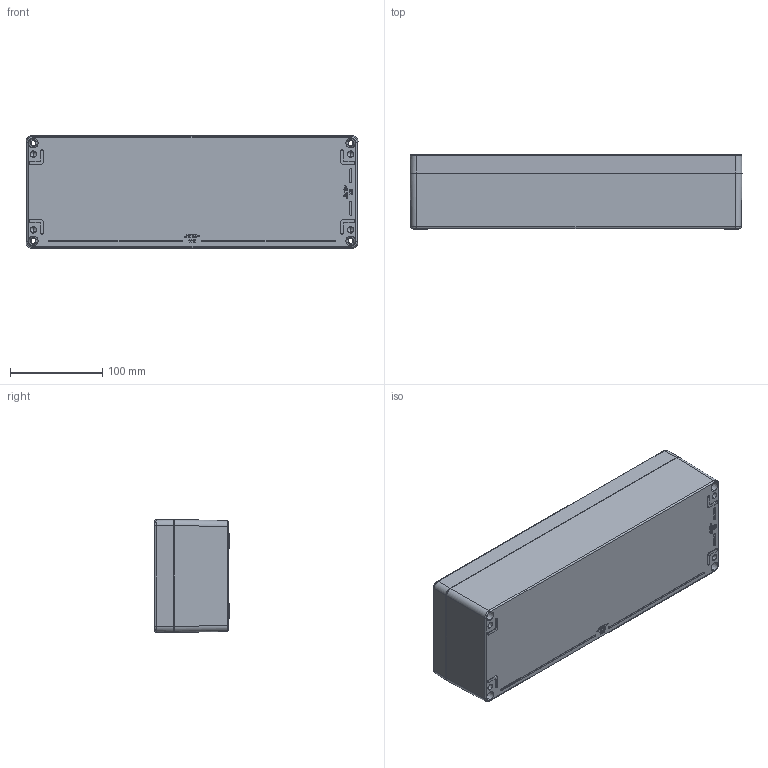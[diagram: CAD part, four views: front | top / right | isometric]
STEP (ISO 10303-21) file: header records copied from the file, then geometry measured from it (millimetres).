
FILE_DESCRIPTION (( 'STEP AP203' ), '1' );
FILE_NAME ('BB056.STEP', '2024-12-28T13:03:48', ( '' ), ( '' ), 'SwSTEP 2.0', 'SolidWorks 2019', '' );
FILE_SCHEMA (( 'CONFIG_CONTROL_DESIGN' ));
Length unit declared in the file: millimetre
Products named in the file (3): BB056; BASE 360; LID 360
Assembly tree (2 placements, depth 2):
  BB056
    BASE 360
    LID 360
Bounding box: 360 x 81 x 122.4 mm (x, y, z)
Volume: 725940 mm3; surface area: 338172.7 mm2
Topology: 2 solids, 2 shells, 940 faces, 2511 edges, 1642 vertices
Faces by surface type: plane 373, bspline 250, cone 209, cylinder 108
Entity records: 39517 total; most frequent: CARTESIAN_POINT 17967, ORIENTED_EDGE 4984, DIRECTION 3405, EDGE_CURVE 2492, VERTEX_POINT 1642, LINE 1301, VECTOR 1301, AXIS2_PLACEMENT_3D 1052
